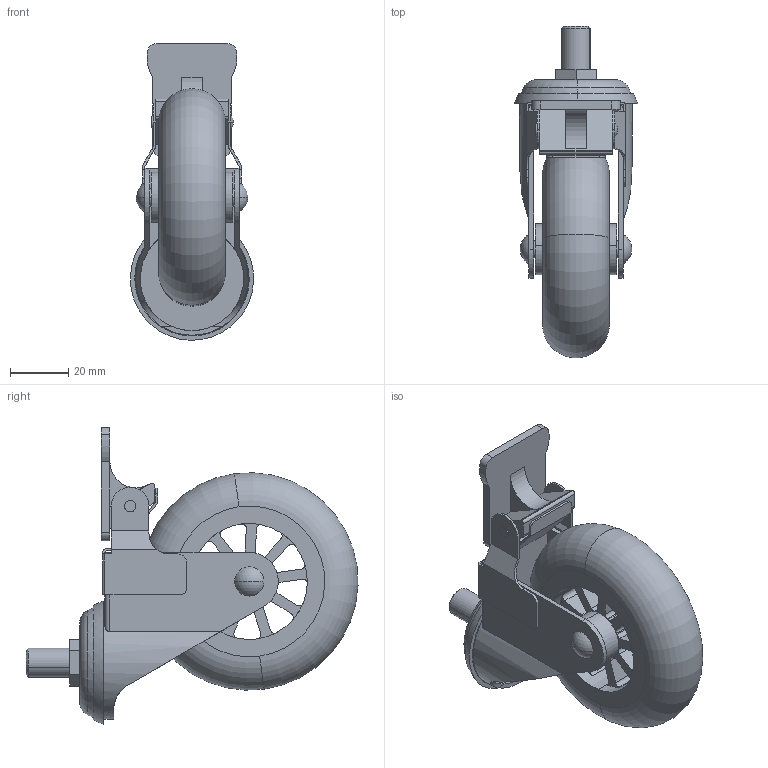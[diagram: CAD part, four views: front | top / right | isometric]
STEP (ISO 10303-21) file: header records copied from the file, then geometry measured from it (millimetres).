
FILE_DESCRIPTION (( 'STEP AP214' ), '1' );
FILE_NAME ('EMMA-75S-M8 M10.STEP', '2020-04-07T06:02:56', ( '' ), ( '' ), 'SwSTEP 2.0', 'SolidWorks 2019', '' );
FILE_SCHEMA (( 'AUTOMOTIVE_DESIGN' ));
Length unit declared in the file: millimetre
Products named in the file (10): EMMA-75-M8 M10_partsA; EMMA-75_jiku; EMMA-75_stopper_pin; EMMA-75_wheel; M10 L21_bolt; EMMA-75S-M8 M10; EMMA-75_stopper_P1; M10 t6_nut; EMMA-75-P_partsB; EMMA-75_stopper_P2
Assembly tree (9 placements, depth 2):
  EMMA-75S-M8 M10
    EMMA-75-P_partsB
    EMMA-75_wheel
    EMMA-75_jiku
    EMMA-75-M8 M10_partsA
    M10 t6_nut
    M10 L21_bolt
    EMMA-75_stopper_P1
    EMMA-75_stopper_P2
    EMMA-75_stopper_pin
Bounding box: 42.48 x 114.47 x 102.24 mm (x, y, z)
Volume: 99558.8 mm3; surface area: 45051.8 mm2
Topology: 9 solids, 9 shells, 249 faces, 670 edges, 445 vertices
Faces by surface type: plane 119, cylinder 110, torus 12, sphere 6, cone 2
Entity records: 8532 total; most frequent: CARTESIAN_POINT 1548, DIRECTION 1476, ORIENTED_EDGE 1340, EDGE_CURVE 670, AXIS2_PLACEMENT_3D 565, VERTEX_POINT 445, VECTOR 346, LINE 346
